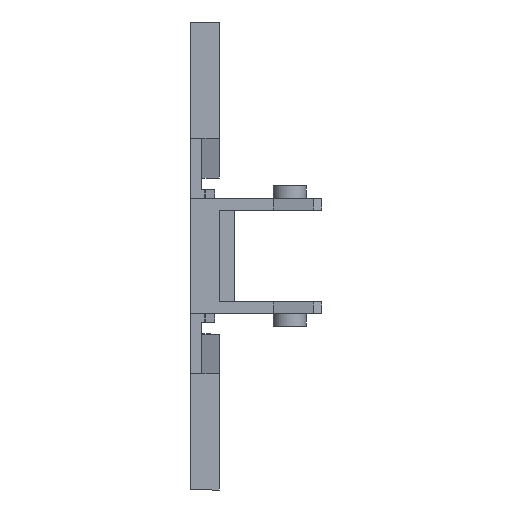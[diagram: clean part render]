
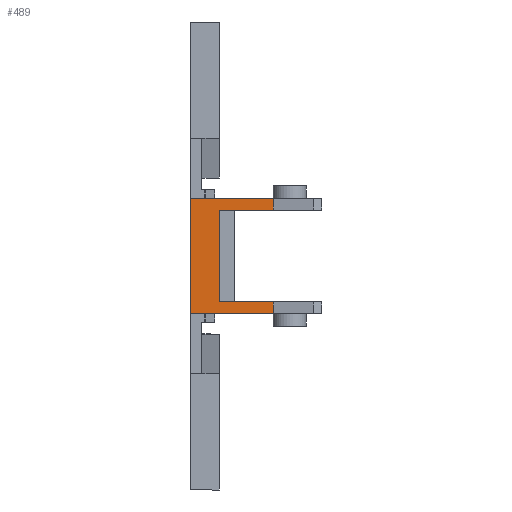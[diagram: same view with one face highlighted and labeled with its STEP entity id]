
A CAD part, front view. The second image highlights one B-rep face of the part: STEP entity #489.
In plain terms, the highlighted planar face has unit normal (0, -1, 0).
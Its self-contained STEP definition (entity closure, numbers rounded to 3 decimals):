
#31 = VERTEX_POINT ( 'NONE', #1472 ) ;
#130 = CARTESIAN_POINT ( 'NONE',  ( 0., -25.55, 4.7 ) ) ;
#134 = CARTESIAN_POINT ( 'NONE',  ( 10.5, -25.55, -4.7 ) ) ;
#197 = VECTOR ( 'NONE', #1051, 1000. ) ;
#210 = EDGE_CURVE ( 'NONE', #3109, #2059, #1666, .T. ) ;
#257 = VERTEX_POINT ( 'NONE', #889 ) ;
#281 = EDGE_LOOP ( 'NONE', ( #3234, #2175, #402, #760, #2798, #781, #1030, #1485 ) ) ;
#326 = FACE_OUTER_BOUND ( 'NONE', #281, .T. ) ;
#402 = ORIENTED_EDGE ( 'NONE', *, *, #1823, .F. ) ;
#489 = ADVANCED_FACE ( 'NONE', ( #326 ), #751, .T. ) ;
#506 = CARTESIAN_POINT ( 'NONE',  ( 5.523, -25.55, 67.733 ) ) ;
#567 = VERTEX_POINT ( 'NONE', #1243 ) ;
#751 = PLANE ( 'NONE',  #828 ) ;
#760 = ORIENTED_EDGE ( 'NONE', *, *, #3261, .T. ) ;
#776 = DIRECTION ( 'NONE',  ( 0., 0., -1. ) ) ;
#781 = ORIENTED_EDGE ( 'NONE', *, *, #1592, .T. ) ;
#783 = DIRECTION ( 'NONE',  ( 0., 0., -1. ) ) ;
#796 = DIRECTION ( 'NONE',  ( -1., 0., 0. ) ) ;
#828 = AXIS2_PLACEMENT_3D ( 'NONE', #2617, #1591, #2384 ) ;
#889 = CARTESIAN_POINT ( 'NONE',  ( 5.523, -25.55, 4.7 ) ) ;
#944 = DIRECTION ( 'NONE',  ( 1., 0., 0. ) ) ;
#950 = VECTOR ( 'NONE', #944, 1000. ) ;
#959 = VERTEX_POINT ( 'NONE', #2274 ) ;
#1030 = ORIENTED_EDGE ( 'NONE', *, *, #1843, .F. ) ;
#1051 = DIRECTION ( 'NONE',  ( 0., 0., -1. ) ) ;
#1063 = DIRECTION ( 'NONE',  ( 0., 0., -1. ) ) ;
#1130 = VERTEX_POINT ( 'NONE', #1986 ) ;
#1146 = VECTOR ( 'NONE', #2598, 1000. ) ;
#1243 = CARTESIAN_POINT ( 'NONE',  ( 5.523, -25.55, 5.9 ) ) ;
#1250 = LINE ( 'NONE', #1265, #1146 ) ;
#1265 = CARTESIAN_POINT ( 'NONE',  ( -1.5, -25.55, -5.9 ) ) ;
#1351 = CARTESIAN_POINT ( 'NONE',  ( -3., -25.55, 15.37 ) ) ;
#1472 = CARTESIAN_POINT ( 'NONE',  ( -3., -25.55, -5.9 ) ) ;
#1485 = ORIENTED_EDGE ( 'NONE', *, *, #210, .F. ) ;
#1495 = VECTOR ( 'NONE', #783, 1000. ) ;
#1591 = DIRECTION ( 'NONE',  ( 0., -1., 0. ) ) ;
#1592 = EDGE_CURVE ( 'NONE', #31, #1130, #1250, .T. ) ;
#1634 = CARTESIAN_POINT ( 'NONE',  ( 10.5, -25.55, 5.9 ) ) ;
#1666 = LINE ( 'NONE', #134, #950 ) ;
#1724 = VECTOR ( 'NONE', #796, 1000. ) ;
#1767 = LINE ( 'NONE', #1351, #2262 ) ;
#1823 = EDGE_CURVE ( 'NONE', #567, #257, #2323, .T. ) ;
#1829 = LINE ( 'NONE', #2622, #197 ) ;
#1843 = EDGE_CURVE ( 'NONE', #2059, #1130, #1829, .T. ) ;
#1986 = CARTESIAN_POINT ( 'NONE',  ( 5.523, -25.55, -5.9 ) ) ;
#2059 = VERTEX_POINT ( 'NONE', #2206 ) ;
#2175 = ORIENTED_EDGE ( 'NONE', *, *, #2191, .T. ) ;
#2186 = VECTOR ( 'NONE', #776, 1000. ) ;
#2191 = EDGE_CURVE ( 'NONE', #2899, #257, #3218, .T. ) ;
#2206 = CARTESIAN_POINT ( 'NONE',  ( 5.523, -25.55, -4.7 ) ) ;
#2262 = VECTOR ( 'NONE', #1063, 1000. ) ;
#2274 = CARTESIAN_POINT ( 'NONE',  ( -3., -25.55, 5.9 ) ) ;
#2286 = DIRECTION ( 'NONE',  ( 1., 0., 0. ) ) ;
#2323 = LINE ( 'NONE', #506, #1495 ) ;
#2384 = DIRECTION ( 'NONE',  ( -1., 0., 0. ) ) ;
#2393 = LINE ( 'NONE', #3406, #2186 ) ;
#2598 = DIRECTION ( 'NONE',  ( 1., 0., 0. ) ) ;
#2614 = VECTOR ( 'NONE', #2286, 1000. ) ;
#2617 = CARTESIAN_POINT ( 'NONE',  ( 10.5, -25.55, -5.9 ) ) ;
#2622 = CARTESIAN_POINT ( 'NONE',  ( 5.523, -25.55, 67.733 ) ) ;
#2798 = ORIENTED_EDGE ( 'NONE', *, *, #3282, .T. ) ;
#2817 = LINE ( 'NONE', #1634, #1724 ) ;
#2899 = VERTEX_POINT ( 'NONE', #130 ) ;
#2925 = CARTESIAN_POINT ( 'NONE',  ( 0., -25.55, -4.7 ) ) ;
#3089 = EDGE_CURVE ( 'NONE', #2899, #3109, #2393, .T. ) ;
#3109 = VERTEX_POINT ( 'NONE', #2925 ) ;
#3218 = LINE ( 'NONE', #3360, #2614 ) ;
#3234 = ORIENTED_EDGE ( 'NONE', *, *, #3089, .F. ) ;
#3261 = EDGE_CURVE ( 'NONE', #567, #959, #2817, .T. ) ;
#3282 = EDGE_CURVE ( 'NONE', #959, #31, #1767, .T. ) ;
#3360 = CARTESIAN_POINT ( 'NONE',  ( 10.5, -25.55, 4.7 ) ) ;
#3406 = CARTESIAN_POINT ( 'NONE',  ( 0., -25.55, -5.9 ) ) ;
